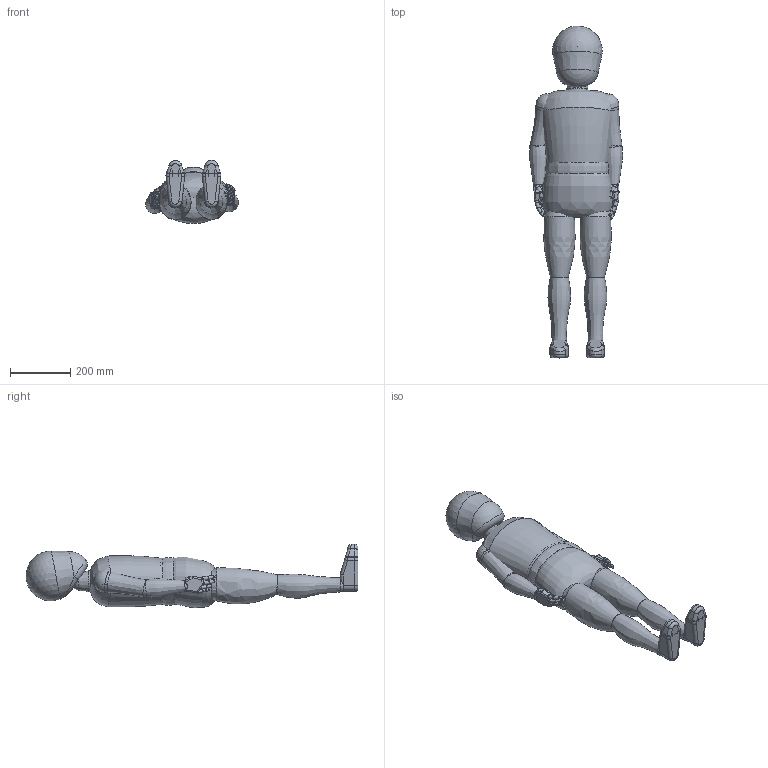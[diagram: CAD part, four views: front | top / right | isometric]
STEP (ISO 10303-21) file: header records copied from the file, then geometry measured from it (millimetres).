
FILE_DESCRIPTION(/* description */ (''),/* implementation_level */ '2;1');
FILE_NAME(/* name */ 'C:\Users\unitec\Documents\Inventor\HP\人物\110\1-直立\ragdoll110-1.stp',/* time_stamp */ '2016-05-13T13:22:14+09:00',/* author */ ('unitec'),/* organization */ (''),/* preprocessor_version */ 'ST-DEVELOPER v15.2',/* originating_system */ 'Autodesk Inventor 2014',/* authorisation */ '');
FILE_SCHEMA (('AUTOMOTIVE_DESIGN { 1 0 10303 214 3 1 1 }'));
Length unit declared in the file: millimetre
Products named in the file (29): B3-110; B2-110; B1-110; L1-110; L2-110; L3-110; L4-110; A1-110; A2-110; H1-110; H2-110; H0-110; F2-1-110; F2-2-110; F2-3-110; F3-1-110; F3-2-110; F3-3-110; F4-1-110; F4-2-110; F4-3-110; F5-1-110; F5-2-110; F5-3-110; F1-1-110; F1-2-110; 軽く開く_L-110; 軽く開く_R-110; 直立-110
Bounding box: 308.88 x 1100.64 x 209.23 mm (x, y, z)
Volume: 25325047.8 mm3; surface area: 1113513.5 mm2
Topology: 47 solids, 47 shells, 332 faces, 878 edges, 524 vertices
Faces by surface type: sphere 116, cylinder 85, plane 51, bspline 39, cone 28, torus 13
Full cylindrical faces by diameter (mm): 12.4 x2
Entity records: 9432 total; most frequent: CARTESIAN_POINT 5236, DIRECTION 875, ORIENTED_EDGE 648, AXIS2_PLACEMENT_3D 395, EDGE_CURVE 324, VERTEX_POINT 213, EDGE_LOOP 209, ADVANCED_FACE 186
